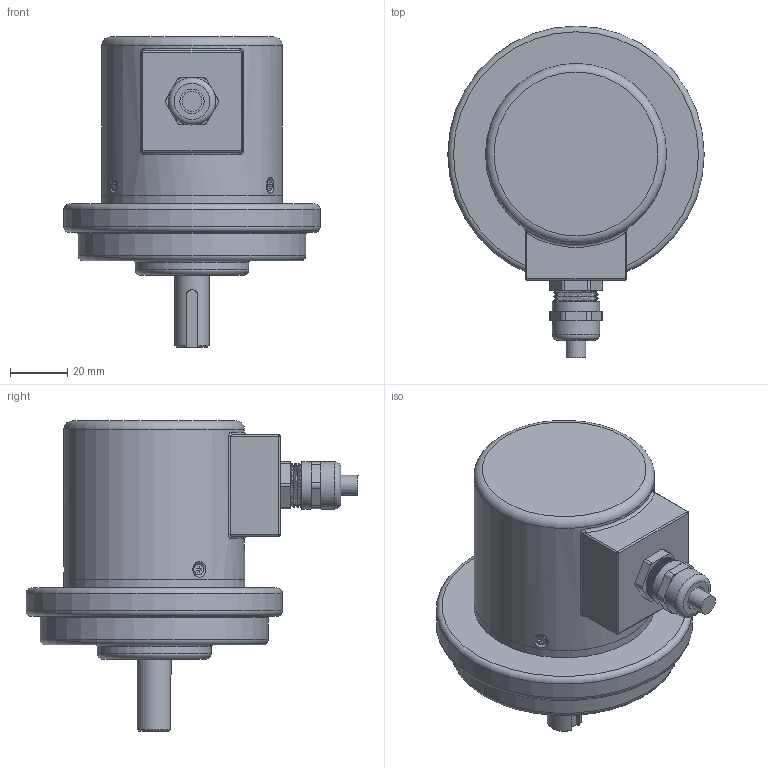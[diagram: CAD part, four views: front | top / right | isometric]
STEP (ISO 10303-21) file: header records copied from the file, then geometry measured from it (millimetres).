
FILE_DESCRIPTION(('FreeCAD Model'),'2;1');
FILE_NAME('Open CASCADE Shape Model','2026-08-04T14:50:56',(''),(''), 'Open CASCADE STEP processor 7.8','FreeCAD','Unknown');
FILE_SCHEMA(('AUTOMOTIVE_DESIGN { 1 0 10303 214 1 1 1 1 }'));
Length unit declared in the file: millimetre
Products named in the file (9): Assembly; 725 Lid Screw; 745 Resolver Body; 740 Series Bearing; 745 12mm Shaft with Keyway; Disc Hub; Disc Hub Grub Screw; PG9 Gland; Black Lid Side PG9 Gland
Assembly tree (12 placements, depth 2):
  Assembly
    725 Lid Screw  x3
    745 Resolver Body
    740 Series Bearing  x2
    745 12mm Shaft with Keyway
    Disc Hub
    Disc Hub Grub Screw  x2
    PG9 Gland
    Black Lid Side PG9 Gland
Bounding box: 89.97 x 116.48 x 108.8 mm (x, y, z)
Volume: 212282.1 mm3; surface area: 68068.1 mm2
Topology: 12 solids, 12 shells, 446 faces, 1011 edges, 620 vertices
Faces by surface type: plane 157, cylinder 111, bspline 94, torus 39, cone 39, sphere 4, revolution 2
Full cylindrical faces by diameter (mm): 1.85 x15, 2.1 x3, 2.35 x2, 2.5 x7, 2.85 x4, 3 x3, 3.3 x2, 3.8 x3, 5 x3, 7 x2, 7.87 x1, 8.5 x1, 9.525 x2, 12 x6, 15 x1, 16.45 x1, 16.5 x4, 16.6 x2, 23.8 x4, 25 x1, 28 x4, 39.97 x1, 54.86 x1, 58.93 x2, 59 x1, 63.5 x2, 79.97 x1, 89.97 x1
Entity records: 31188 total; most frequent: CARTESIAN_POINT 23184, ORIENTED_EDGE 1682, DIRECTION 1409, EDGE_CURVE 841, AXIS2_PLACEMENT_3D 568, VERTEX_POINT 527, FACE_BOUND 442, EDGE_LOOP 442
